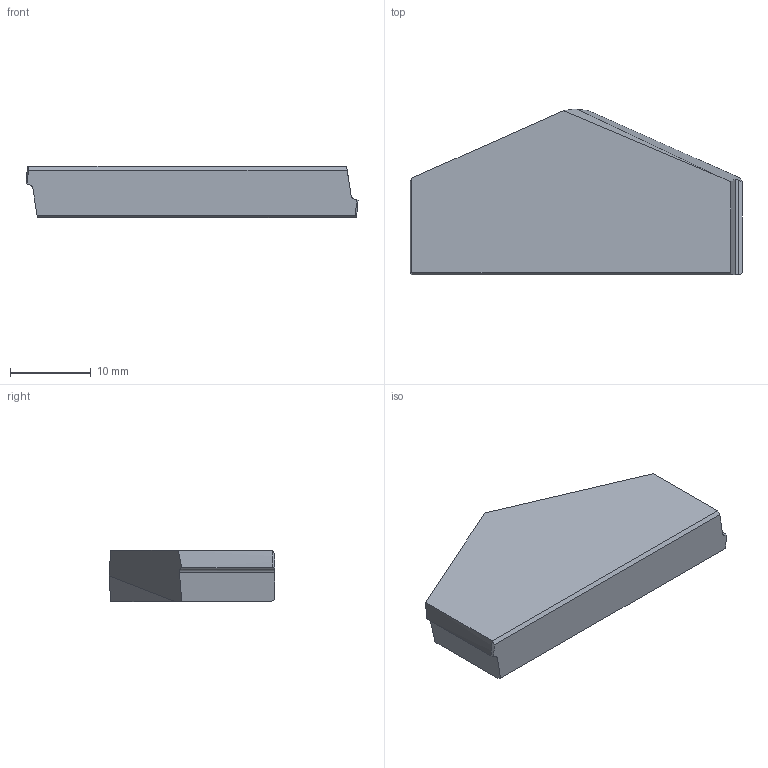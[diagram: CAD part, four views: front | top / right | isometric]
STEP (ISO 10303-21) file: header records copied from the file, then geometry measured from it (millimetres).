
FILE_DESCRIPTION (( 'STEP AP214' ), '1' );
FILE_NAME ('02-1063.STEP', '2022-06-24T05:46:50', ( '' ), ( '' ), 'SwSTEP 2.0', 'SolidWorks 2018', '' );
FILE_SCHEMA (( 'AUTOMOTIVE_DESIGN' ));
Length unit declared in the file: millimetre
Products named in the file (1): 02-1063
Bounding box: 41.23 x 20.6 x 6.4 mm (x, y, z)
Volume: 4101.6 mm3; surface area: 1956.5 mm2
Topology: 1 solids, 1 shells, 19 faces, 50 edges, 33 vertices
Faces by surface type: plane 13, cylinder 4, cone 2
Entity records: 620 total; most frequent: CARTESIAN_POINT 133, ORIENTED_EDGE 100, DIRECTION 86, EDGE_CURVE 50, LINE 34, VECTOR 34, VERTEX_POINT 33, AXIS2_PLACEMENT_3D 26
